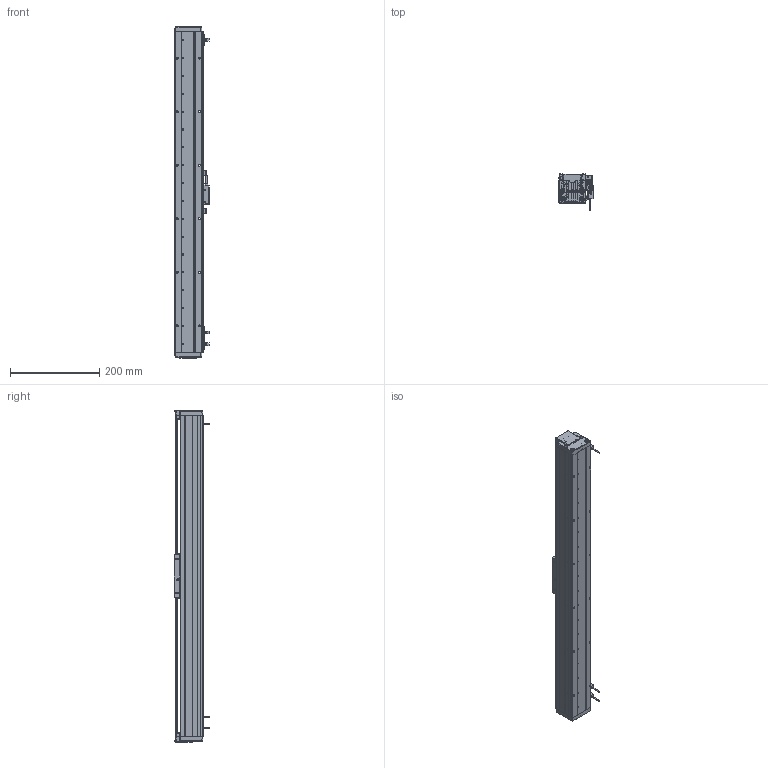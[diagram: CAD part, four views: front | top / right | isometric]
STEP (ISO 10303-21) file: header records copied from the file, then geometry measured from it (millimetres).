
FILE_DESCRIPTION (( 'STEP AP203' ), '1' );
FILE_NAME ('DA-A60-B1-T580-C010-0.2 眻盄萇儂.STEP', '2025-08-13T01:58:33', ( '' ), ( '' ), 'SwSTEP 2.0', 'SolidWorks 2019', '' );
FILE_SCHEMA (( 'CONFIG_CONTROL_DESIGN' ));
Length unit declared in the file: millimetre
Products named in the file (21): 复件 DA60-DG-H-N-00 端盖^DA-A60-B1-T-C010-0.2-N 直线电机; DA60-B1-HT-B-03 賑雄怢啣; 复件 DA60-DMT-DTJ-00 读数头支架^DA-A60-B1-T-C010-0.2-N 直线电机; IU-AU60-L-00 菁釱(720); 复件 纯铜油杯 6x6mm^AU60-V 滚珠滑台; 复件 XD-U-02  磁栅尺^DA-A60-B1-T-C010-0.2-N 直线电机; 复件 DA-A60-GYP-DMT-00 光电感应片^DA-A60-B1-T-C010-0.2-N 直线电机(默认); 复件 DA60-B1-GT-00 滑块钢轨^DA60-YT-B1-HT-B-01 一体化滑动台板; DA60-YT-B1-HT-B-01 珨极趙賑雄怢啣; AU60-L 菁釱絳寢; 葩璃 PM-T45^DA-A60-B1-T-C010-0.2-N 眻盄萇儂; 葩璃 DA60-HK-DP-01 結え^AU60-V 幗紩賑怢; 葩璃 DMT-010 1米m 0.2M^DA-A60-B1-T-C010-0.2-N 眻盄萇儂; 复件 DA60-GT-T-00 底座钢轨^AU60-L 底座导轨; 复件 DA60-XJ-00 橡胶挡块^DA-A60-B1-T-C010-0.2-N 直线电机; DA60-T-002-00  裔啣; AU60-V 幗紩賑怢; DA-A60-B1-T580-C010-0.2 眻盄萇儂; 复件 六角薄螺母 M3^DA-A60-B1-T-C010-0.2-N 直线电机(GB_FASTENER_NUT_STNAB M3-C); 复件 BAKM01-W030-C1-TP-0.2 直线电机动子^DA-A60-B1-T-C010-0.2-N 直线电机; 葩璃 AKM01-W030-TRL^DA-A60-B1-T-C010-0.2-N 眻盄萇儂
Assembly tree (33 placements, depth 4):
  DA-A60-B1-T580-C010-0.2 眻盄萇儂
    AU60-L 菁釱絳寢
      IU-AU60-L-00 菁釱(720)
      复件 DA60-GT-T-00 底座钢轨^AU60-L 底座导轨  x2
    AU60-V 幗紩賑怢
      DA60-YT-B1-HT-B-01 珨极趙賑雄怢啣
        DA60-B1-HT-B-03 賑雄怢啣
        复件 DA60-B1-GT-00 滑块钢轨^DA60-YT-B1-HT-B-01 一体化滑动台板  x2
      葩璃 DA60-HK-DP-01 結え^AU60-V 幗紩賑怢  x2
      复件 纯铜油杯 6x6mm^AU60-V 滚珠滑台
    复件 DA-A60-GYP-DMT-00 光电感应片^DA-A60-B1-T-C010-0.2-N 直线电机(默认)  x2
    复件 DA60-DMT-DTJ-00 读数头支架^DA-A60-B1-T-C010-0.2-N 直线电机
    葩璃 DMT-010 1米m 0.2M^DA-A60-B1-T-C010-0.2-N 眻盄萇儂
    复件 BAKM01-W030-C1-TP-0.2 直线电机动子^DA-A60-B1-T-C010-0.2-N 直线电机
    复件 DA60-XJ-00 橡胶挡块^DA-A60-B1-T-C010-0.2-N 直线电机  x2
    复件 DA60-DG-H-N-00 端盖^DA-A60-B1-T-C010-0.2-N 直线电机  x2
    DA60-T-002-00  裔啣
    葩璃 AKM01-W030-TRL^DA-A60-B1-T-C010-0.2-N 眻盄萇儂
    葩璃 PM-T45^DA-A60-B1-T-C010-0.2-N 眻盄萇儂  x3
    复件 XD-U-02  磁栅尺^DA-A60-B1-T-C010-0.2-N 直线电机
    复件 六角薄螺母 M3^DA-A60-B1-T-C010-0.2-N 直线电机(GB_FASTENER_NUT_STNAB M3-C)  x6
Bounding box: 76.95 x 80 x 744 mm (x, y, z)
Volume: 1551677.1 mm3; surface area: 560633.7 mm2
Topology: 35 solids, 37 shells, 2873 faces, 7352 edges, 4449 vertices
Faces by surface type: cylinder 1088, plane 951, bspline 577, cone 248, torus 8, sphere 1
Entity records: 71337 total; most frequent: CARTESIAN_POINT 22988, ORIENTED_EDGE 9960, DIRECTION 9101, EDGE_CURVE 4980, AXIS2_PLACEMENT_3D 3276, VERTEX_POINT 3120, LINE 2549, VECTOR 2549
